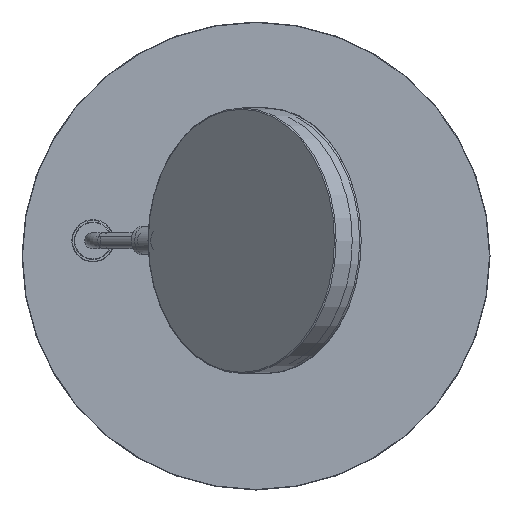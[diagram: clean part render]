
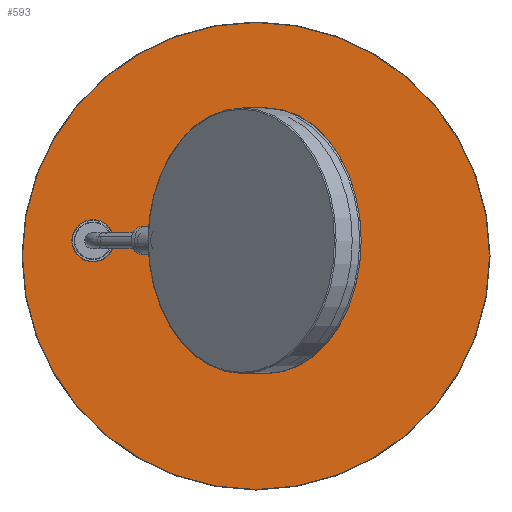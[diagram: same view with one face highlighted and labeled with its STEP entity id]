
A CAD part, front view. The second image highlights one B-rep face of the part: STEP entity #593.
In plain terms, the highlighted planar face has unit normal (0, -1, 0) as drawn and (0, 1, 0) by its records, which use the part's own axes.
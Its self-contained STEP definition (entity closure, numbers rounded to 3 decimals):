
#168=FACE_OUTER_BOUND('',#211,.T.);
#211=EDGE_LOOP('',(#442));
#260=CIRCLE('',#865,99.8);
#310=VERTEX_POINT('',#1240);
#361=EDGE_CURVE('',#310,#310,#260,.T.);
#442=ORIENTED_EDGE('',*,*,#361,.F.);
#574=PLANE('',#866);
#593=ADVANCED_FACE('',(#168),#574,.T.);
#865=AXIS2_PLACEMENT_3D('',#1242,#994,#995);
#866=AXIS2_PLACEMENT_3D('',#1243,#996,#997);
#994=DIRECTION('center_axis',(0.,-1.,0.));
#995=DIRECTION('ref_axis',(1.,0.,0.));
#996=DIRECTION('center_axis',(0.,1.,0.));
#997=DIRECTION('ref_axis',(0.,0.,1.));
#1240=CARTESIAN_POINT('',(-99.8,15.,0.));
#1242=CARTESIAN_POINT('Origin',(0.,15.,0.));
#1243=CARTESIAN_POINT('Origin',(0.,15.,0.));
